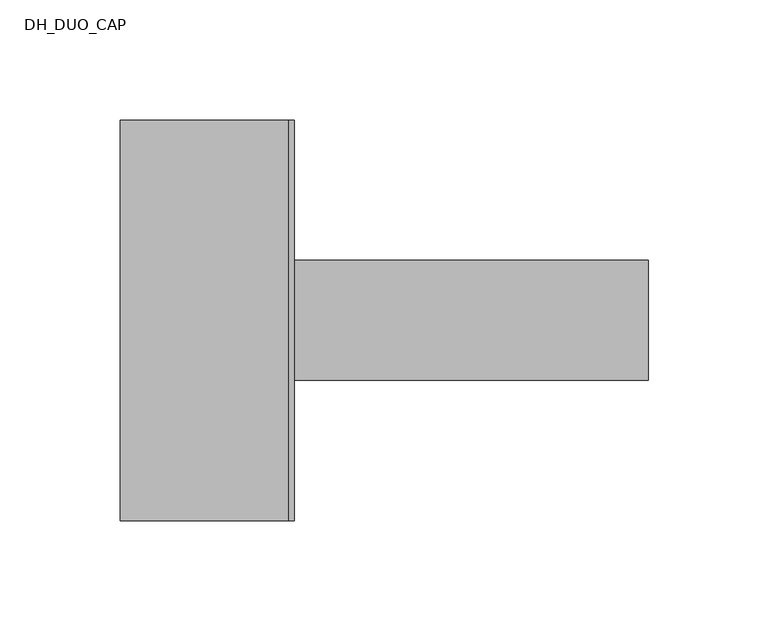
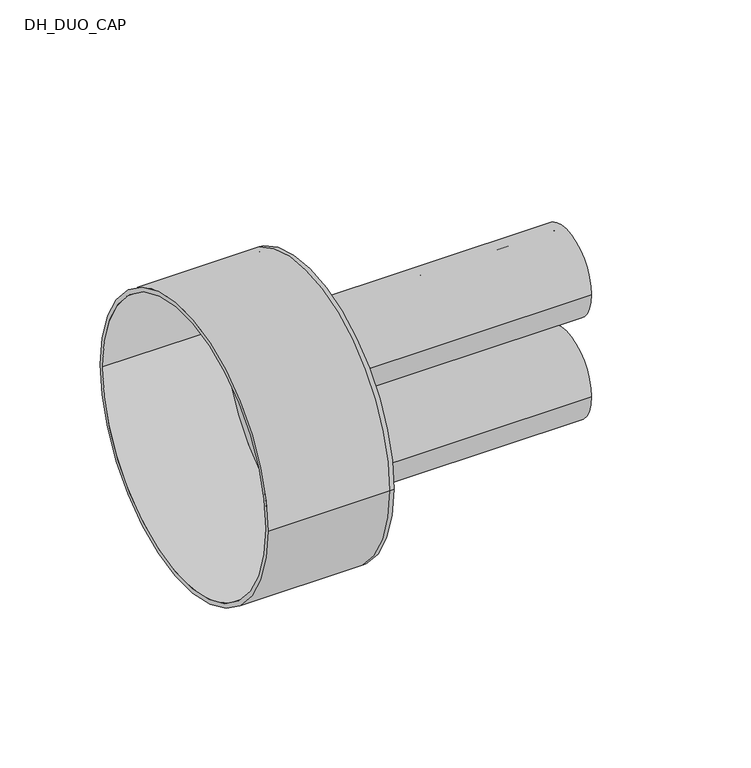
"""IFC4 building model written with IfcOpenShell, lengths in millimetres: pipe fitting geometry, DH_DUO_CAP : RAUTHERMEX DUO 11 Heating - Solid Cap."""

from ifc_helpers import new_model, si_unit, point, frame, frame_2d, origin, place, context, project, spatial, polyline, circle_curve, trimmed, segment, composite_curve, outline, extrude, source, transform, mapped, element, save
from ifc_brep_helpers import plane_surface, cylinder_surface, revolved_surface, advanced_brep


def dh_duo_cap_26cdef8a(model_context):
    return source(origin(), model_context, "Body", "SolidModel", [
        extrude(outline(composite_curve([segment(trimmed(circle_curve(frame_2d((0.0, -31.0)), 25.0), [point((-25.0, -31.0))], [point((25.0, -31.0))], False, "CARTESIAN"), True, "CONTINUOUS"), segment(trimmed(circle_curve(frame_2d((0.0, -31.0)), 25.0), [point((25.0, -31.0))], [point((-25.0, -31.0))], False, "CARTESIAN"), True, "CONTINUOUS")], self_intersect=False), holes=[composite_curve([segment(trimmed(circle_curve(frame_2d((0.0, -31.0)), 20.4), [point((-20.4, -31.0))], [point((20.4, -31.0))], True, "CARTESIAN"), True, "CONTINUOUS"), segment(trimmed(circle_curve(frame_2d((0.0, -31.0)), 20.4), [point((20.4, -31.0))], [point((-20.4, -31.0))], True, "CARTESIAN"), True, "CONTINUOUS")], self_intersect=False)]), frame((0.0, 0.0, 0.0), z_axis=(1.0, 0.0, 0.0), x_axis=(0.0, 1.0, 0.0)), (0.0, 0.0, 1.0), 150.0),
        extrude(outline(composite_curve([segment(trimmed(circle_curve(frame_2d((0.0, 31.0)), 25.0), [point((-25.0, 31.0))], [point((25.0, 31.0))], False, "CARTESIAN"), True, "CONTINUOUS"), segment(trimmed(circle_curve(frame_2d((0.0, 31.0)), 25.0), [point((25.0, 31.0))], [point((-25.0, 31.0))], False, "CARTESIAN"), True, "CONTINUOUS")], self_intersect=False), holes=[composite_curve([segment(trimmed(circle_curve(frame_2d((0.0, 31.0)), 20.4), [point((-20.4, 31.0))], [point((20.4, 31.0))], True, "CARTESIAN"), True, "CONTINUOUS"), segment(trimmed(circle_curve(frame_2d((0.0, 31.0)), 20.4), [point((20.4, 31.0))], [point((-20.4, 31.0))], True, "CARTESIAN"), True, "CONTINUOUS")], self_intersect=False)]), frame((0.0, 0.0, 0.0), z_axis=(1.0, 0.0, 0.0), x_axis=(0.0, 1.0, 0.0)), (0.0, 0.0, 1.0), 150.0),
        advanced_brep(
        [(-70.0, -83.5, 0.0), (-70.0, 83.5, 0.0), (-70.0, -81.0, 0.0), (-70.0, 81.0, 0.0), (0.0, -81.0, 0.0), (0.0, 81.0, 0.0), (0.0, -83.5, 0.0), (0.0, 83.5, 0.0), (0.0, 25.0, 31.0), (0.0, -25.0, 31.0), (0.0, 25.0, -31.0), (0.0, -25.0, -31.0), (2.5, -83.5, 0.0), (2.5, 83.5, 0.0), (2.5, -25.0, 31.0), (2.5, 25.0, 31.0), (2.5, -25.0, -31.0), (2.5, 25.0, -31.0)],
        [
            (0, 1, circle_curve(frame((-70.0, 0.0, 0.0), z_axis=(-1.0, 0.0, 0.0), x_axis=(0.0, 1.0, 0.0)), 83.5)),
            (1, 0, circle_curve(frame((-70.0, 0.0, 0.0), z_axis=(-1.0, 0.0, 0.0), x_axis=(0.0, 1.0, 0.0)), 83.5)),
            (2, 3, circle_curve(frame((-70.0, 0.0, 0.0), z_axis=(1.0, 0.0, 0.0), x_axis=(0.0, 1.0, 0.0)), 81.0)),
            (3, 2, circle_curve(frame((-70.0, 0.0, 0.0), z_axis=(1.0, 0.0, 0.0), x_axis=(0.0, 1.0, 0.0)), 81.0)),
            (2, 4),
            (4, 5, circle_curve(frame((0.0, 0.0, 0.0), z_axis=(1.0, 0.0, 0.0), x_axis=(0.0, 1.0, 0.0)), 81.0)),
            (5, 3),
            (5, 4, circle_curve(frame((0.0, 0.0, 0.0), z_axis=(1.0, 0.0, 0.0), x_axis=(0.0, 1.0, 0.0)), 81.0)),
            (0, 6),
            (6, 7, circle_curve(frame((0.0, 0.0, 0.0), z_axis=(-1.0, 0.0, 0.0), x_axis=(0.0, 1.0, 0.0)), 83.5)),
            (7, 1),
            (7, 6, circle_curve(frame((0.0, 0.0, 0.0), z_axis=(-1.0, 0.0, 0.0), x_axis=(0.0, 1.0, 0.0)), 83.5)),
            (8, 9, circle_curve(frame((0.0, 0.0, 31.0), z_axis=(1.0, 0.0, 0.0), x_axis=(0.0, 1.0, 0.0)), 25.0)),
            (9, 8, circle_curve(frame((0.0, 0.0, 31.0), z_axis=(1.0, 0.0, 0.0), x_axis=(0.0, 1.0, 0.0)), 25.0)),
            (10, 11, circle_curve(frame((0.0, 0.0, -31.0), z_axis=(1.0, 0.0, 0.0), x_axis=(0.0, 1.0, 0.0)), 25.0)),
            (11, 10, circle_curve(frame((0.0, 0.0, -31.0), z_axis=(1.0, 0.0, 0.0), x_axis=(0.0, 1.0, 0.0)), 25.0)),
            (12, 13, circle_curve(frame((2.5, 0.0, 0.0), z_axis=(1.0, 0.0, 0.0), x_axis=(0.0, 1.0, 0.0)), 83.5)),
            (13, 12, circle_curve(frame((2.5, 0.0, 0.0), z_axis=(1.0, 0.0, 0.0), x_axis=(0.0, 1.0, 0.0)), 83.5)),
            (14, 15, circle_curve(frame((2.5, 0.0, 31.0), z_axis=(-1.0, 0.0, 0.0), x_axis=(0.0, 1.0, 0.0)), 25.0)),
            (15, 14, circle_curve(frame((2.5, 0.0, 31.0), z_axis=(-1.0, 0.0, 0.0), x_axis=(0.0, 1.0, 0.0)), 25.0)),
            (16, 17, circle_curve(frame((2.5, 0.0, -31.0), z_axis=(-1.0, 0.0, 0.0), x_axis=(0.0, 1.0, 0.0)), 25.0)),
            (17, 16, circle_curve(frame((2.5, 0.0, -31.0), z_axis=(-1.0, 0.0, 0.0), x_axis=(0.0, 1.0, 0.0)), 25.0)),
            (13, 7),
            (6, 12),
            (8, 15),
            (14, 9),
            (10, 17),
            (16, 11),
        ],
        [
            plane_surface(frame((-70.0, 0.0, 0.0), z_axis=(-1.0, 0.0, 0.0), x_axis=(0.0, 0.0, 1.0))),
            revolved_surface(polyline([(0.0, 81.0, 0.0), (-70.0, 81.0, 0.0)]), (-70.0, 0.0, 0.0), (1.0, 0.0, 0.0)),
            cylinder_surface(frame((-70.0, 0.0, 0.0), z_axis=(-1.0, 0.0, 0.0), x_axis=(0.0, 1.0, 0.0)), 83.5),
            plane_surface(frame((0.0, 0.0, 0.0), z_axis=(-1.0, 0.0, 0.0), x_axis=(0.0, 0.0, 1.0))),
            plane_surface(frame((2.5, 0.0, 0.0), z_axis=(1.0, 0.0, 0.0), x_axis=(0.0, 0.0, 1.0))),
            cylinder_surface(frame((0.0, 0.0, 0.0), z_axis=(-1.0, 0.0, 0.0), x_axis=(0.0, 1.0, 0.0)), 83.5),
            revolved_surface(polyline([(0.0, 25.0, 31.0), (2.5, 25.0, 31.0)]), (0.0, 0.0, 31.0), (-1.0, 0.0, 0.0)),
            revolved_surface(polyline([(0.0, 25.0, -31.0), (2.5, 25.0, -31.0)]), (0.0, 0.0, -31.0), (-1.0, 0.0, 0.0)),
        ],
        [
            (0, [[1, 2], [3, 4]]),
            (1, [[-3, 5, 6, 7]]),
            (1, [[-4, -7, 8, -5]]),
            (2, [[-1, 9, 10, 11]]),
            (2, [[-2, -11, 12, -9]]),
            (3, [[-6, -8], [13, 14], [15, 16]]),
            (4, [[17, 18], [19, 20], [21, 22]]),
            (5, [[-18, 23, -10, 24]]),
            (5, [[-17, -24, -12, -23]]),
            (6, [[25, -19, 26, -13]]),
            (6, [[-25, -14, -26, -20]]),
            (7, [[27, -21, 28, -15]]),
            (7, [[-27, -16, -28, -22]]),
        ],
    ),
    ])


if __name__ == "__main__":
    model = new_model("IFC4")
    model_context = context("Model", 3, world=origin())
    ifc_project = project(units=[si_unit("LENGTHUNIT", "METRE", prefix="MILLI")], contexts=[model_context])
    site = spatial("IfcSite", under=ifc_project)
    building = spatial("IfcBuilding", under=site)
    placement = place(None, origin())
    dh_duo_cap_shape = dh_duo_cap_26cdef8a(model_context)
    element("IfcPipeFitting", 1, ObjectType="DH_DUO_CAP : RAUTHERMEX DUO 11 Heating - Solid Cap", at=placement, inside=building, context=model_context, shape_type="MappedRepresentation", body=[
        mapped(dh_duo_cap_shape, transform((0.0, 0.0, 0.0), x_axis=(1.0, 0.0, 0.0), y_axis=(0.0, 1.0, 0.0), z_axis=(0.0, 0.0, 1.0))),
    ])
    save(model, "model.ifc")
